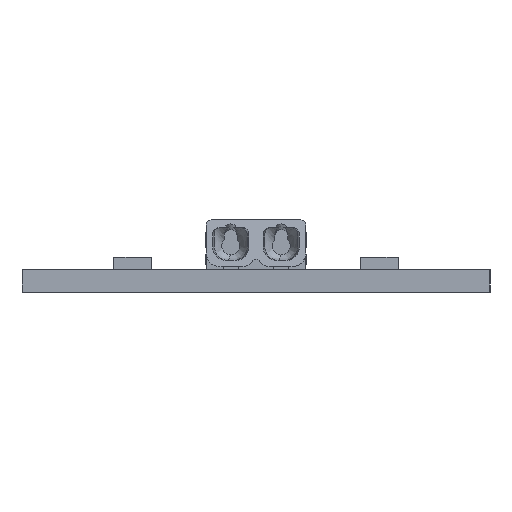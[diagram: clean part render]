
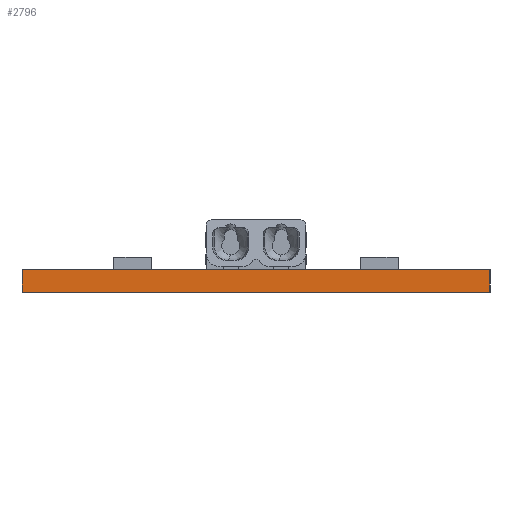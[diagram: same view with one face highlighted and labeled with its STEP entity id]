
A CAD part, left-side view. The second image highlights one B-rep face of the part: STEP entity #2796.
In plain terms, the highlighted planar face has unit normal (-1, 0, 0).
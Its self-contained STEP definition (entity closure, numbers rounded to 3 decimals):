
#2740=CARTESIAN_POINT('',(-137.5,-18.5,1.75));
#2741=VERTEX_POINT('',#2740);
#2748=CARTESIAN_POINT('',(-137.5,-18.5,0.0));
#2749=VERTEX_POINT('',#2748);
#2750=CARTESIAN_POINT('',(-137.5,-18.5,0.0));
#2751=DIRECTION('',(0.0,0.0,1.0));
#2752=VECTOR('',#2751,1.75);
#2753=LINE('',#2750,#2752);
#2754=EDGE_CURVE('',#2749,#2741,#2753,.T.);
#2766=CARTESIAN_POINT('',(-137.5,-18.5,0.0));
#2767=DIRECTION('',(-1.0,0.0,0.0));
#2768=DIRECTION('',(0.0,0.0,1.0));
#2769=AXIS2_PLACEMENT_3D('',#2766,#2767,#2768);
#2770=PLANE('',#2769);
#2771=CARTESIAN_POINT('',(-137.5,18.5,1.75));
#2772=VERTEX_POINT('',#2771);
#2773=CARTESIAN_POINT('',(-137.5,-18.5,1.75));
#2774=DIRECTION('',(0.0,1.0,0.0));
#2775=VECTOR('',#2774,37.);
#2776=LINE('',#2773,#2775);
#2777=EDGE_CURVE('',#2741,#2772,#2776,.T.);
#2778=ORIENTED_EDGE('',*,*,#2777,.T.);
#2779=CARTESIAN_POINT('',(-137.5,18.5,0.0));
#2780=VERTEX_POINT('',#2779);
#2781=CARTESIAN_POINT('',(-137.5,18.5,0.0));
#2782=DIRECTION('',(0.0,0.0,1.0));
#2783=VECTOR('',#2782,1.75);
#2784=LINE('',#2781,#2783);
#2785=EDGE_CURVE('',#2780,#2772,#2784,.T.);
#2786=ORIENTED_EDGE('',*,*,#2785,.F.);
#2787=CARTESIAN_POINT('',(-137.5,-18.5,0.0));
#2788=DIRECTION('',(0.0,1.0,0.0));
#2789=VECTOR('',#2788,37.);
#2790=LINE('',#2787,#2789);
#2791=EDGE_CURVE('',#2749,#2780,#2790,.T.);
#2792=ORIENTED_EDGE('',*,*,#2791,.F.);
#2793=ORIENTED_EDGE('',*,*,#2754,.T.);
#2794=EDGE_LOOP('',(#2778,#2786,#2792,#2793));
#2795=FACE_OUTER_BOUND('',#2794,.T.);
#2796=ADVANCED_FACE('',(#2795),#2770,.T.);
